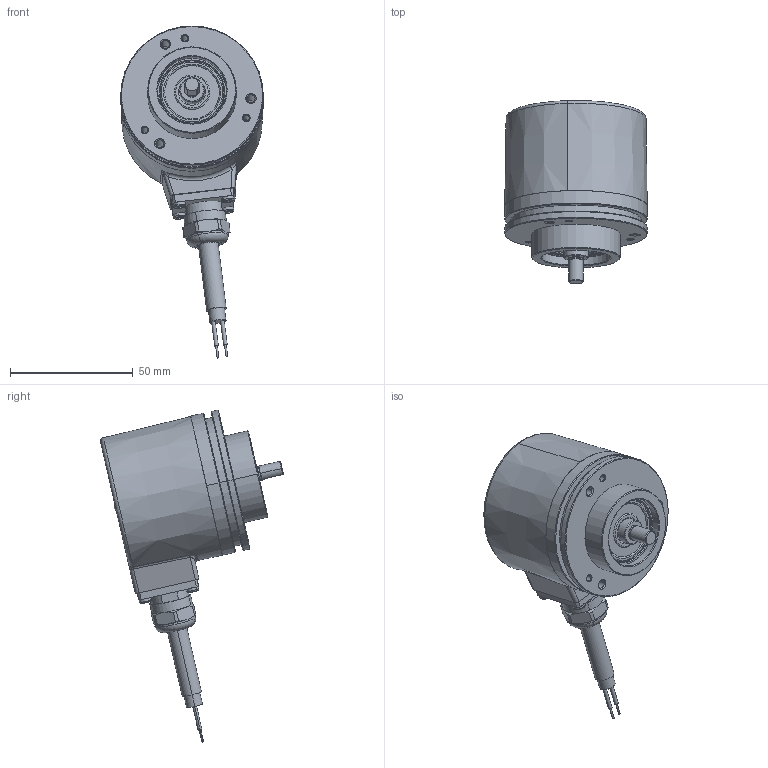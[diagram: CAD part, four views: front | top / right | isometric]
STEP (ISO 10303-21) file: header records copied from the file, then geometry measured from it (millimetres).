
FILE_DESCRIPTION (( 'STEP AP203' ), '1' );
FILE_NAME ('8.F5863.11X2.XXXX.STEP', '2013-03-25T15:09:46', ( 'Hodot' ), ( '' ), 'SwSTEP 2.0', 'SolidWorks 2012', '' );
FILE_SCHEMA (( 'CONFIG_CONTROL_DESIGN' ));
Length unit declared in the file: millimetre
Products named in the file (1): 8.F5863.11X2.XXXX
Bounding box: 58 x 74.36 x 134.99 mm (x, y, z)
Volume: 68448.3 mm3; surface area: 49892.2 mm2
Topology: 13 solids, 13 shells, 826 faces, 1996 edges, 1204 vertices
Faces by surface type: cylinder 267, plane 212, cone 181, torus 100, bspline 36, sphere 30
Entity records: 25614 total; most frequent: CARTESIAN_POINT 6572, DIRECTION 4229, ORIENTED_EDGE 3808, EDGE_CURVE 1904, AXIS2_PLACEMENT_3D 1776, VERTEX_POINT 1174, CIRCLE 985, EDGE_LOOP 936
